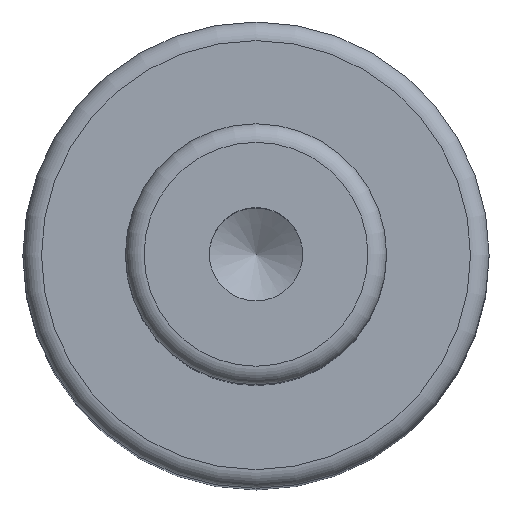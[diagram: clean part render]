
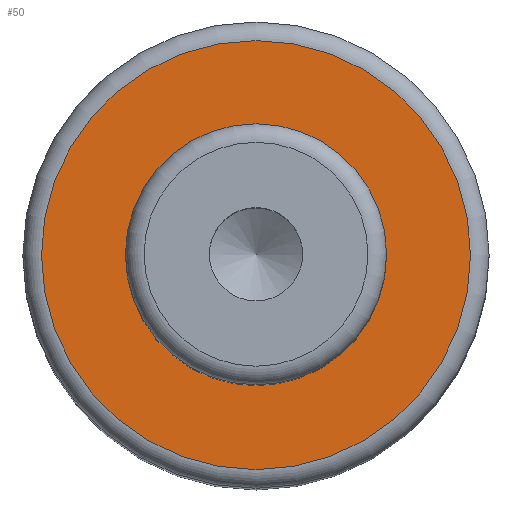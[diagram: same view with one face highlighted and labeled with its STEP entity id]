
A CAD part, top view. The second image highlights one B-rep face of the part: STEP entity #50.
In plain terms, the highlighted planar face has unit normal (0, 0, 1).
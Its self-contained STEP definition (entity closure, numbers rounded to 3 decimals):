
#40=PLANE('',#179);
#50=ADVANCED_FACE('',(#72,#73),#40,.F.);
#72=FACE_BOUND('',#96,.T.);
#73=FACE_BOUND('',#97,.T.);
#96=EDGE_LOOP('',(#118));
#97=EDGE_LOOP('',(#119));
#118=ORIENTED_EDGE('',*,*,#149,.F.);
#119=ORIENTED_EDGE('',*,*,#148,.T.);
#135=VERTEX_POINT('',#256);
#136=VERTEX_POINT('',#259);
#148=EDGE_CURVE('',#135,#135,#159,.T.);
#149=EDGE_CURVE('',#136,#136,#160,.T.);
#159=CIRCLE('',#176,7.);
#160=CIRCLE('',#178,11.5);
#176=AXIS2_PLACEMENT_3D('',#255,#213,#214);
#178=AXIS2_PLACEMENT_3D('',#258,#217,#218);
#179=AXIS2_PLACEMENT_3D('',#260,#219,#220);
#213=DIRECTION('',(0.,0.,-1.));
#214=DIRECTION('',(-1.,0.,0.));
#217=DIRECTION('',(0.,0.,-1.));
#218=DIRECTION('',(-1.,0.,0.));
#219=DIRECTION('',(0.,0.,-1.));
#220=DIRECTION('',(-1.,0.,0.));
#255=CARTESIAN_POINT('',(0.,0.,54.));
#256=CARTESIAN_POINT('',(-7.,0.,54.));
#258=CARTESIAN_POINT('',(0.,0.,54.));
#259=CARTESIAN_POINT('',(-11.5,0.,54.));
#260=CARTESIAN_POINT('',(7.,0.,54.));
